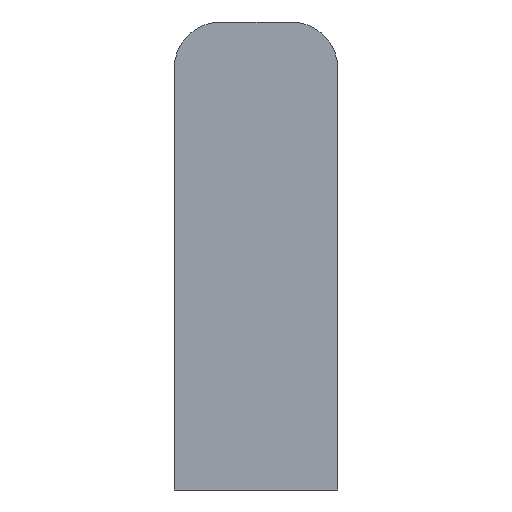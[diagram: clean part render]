
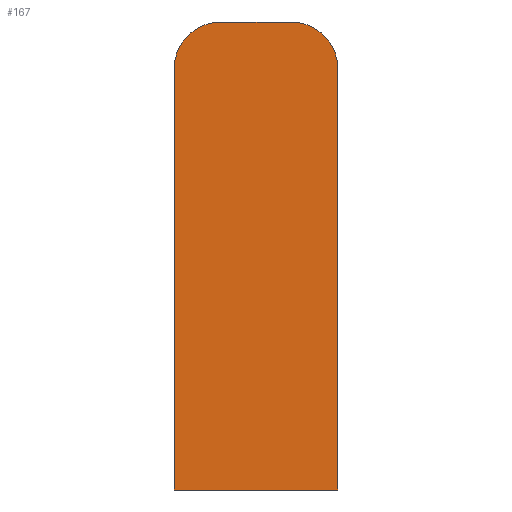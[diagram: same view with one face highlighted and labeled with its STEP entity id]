
A CAD part, front view. The second image highlights one B-rep face of the part: STEP entity #167.
In plain terms, the highlighted planar face has unit normal (0, -1, 0).
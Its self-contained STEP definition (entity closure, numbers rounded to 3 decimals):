
#2 = EDGE_CURVE ( 'NONE', #131, #54, #224, .T. ) ;
#3 = EDGE_CURVE ( 'NONE', #53, #55, #223, .T. ) ;
#5 = EDGE_CURVE ( 'NONE', #55, #57, #221, .T. ) ;
#9 = EDGE_CURVE ( 'NONE', #51, #131, #229, .T. ) ;
#11 = EDGE_CURVE ( 'NONE', #57, #51, #233, .T. ) ;
#15 = AXIS2_PLACEMENT_3D ( 'NONE', #40, #58, #59 ) ;
#16 = AXIS2_PLACEMENT_3D ( 'NONE', #65, #69, #70 ) ;
#27 = AXIS2_PLACEMENT_3D ( 'NONE', #139, #135, #138 ) ;
#36 = EDGE_CURVE ( 'NONE', #54, #53, #248, .T. ) ;
#40 = CARTESIAN_POINT ( 'NONE',  ( -2.25, 0., 10.5 ) ) ;
#51 = VERTEX_POINT ( 'NONE', #108 ) ;
#52 = CARTESIAN_POINT ( 'NONE',  ( 5.25, 0., -16.5 ) ) ;
#53 = VERTEX_POINT ( 'NONE', #109 ) ;
#54 = VERTEX_POINT ( 'NONE', #110 ) ;
#55 = VERTEX_POINT ( 'NONE', #111 ) ;
#57 = VERTEX_POINT ( 'NONE', #96 ) ;
#58 = DIRECTION ( 'NONE',  ( 0., -1., 0. ) ) ;
#59 = DIRECTION ( 'NONE',  ( -1., 0., 0. ) ) ;
#60 = CARTESIAN_POINT ( 'NONE',  ( 5.25, 0., -16.5 ) ) ;
#61 = DIRECTION ( 'NONE',  ( 1., 0., 0. ) ) ;
#65 = CARTESIAN_POINT ( 'NONE',  ( 2.25, 0., 10.5 ) ) ;
#66 = DIRECTION ( 'NONE',  ( 0., 0., 1. ) ) ;
#67 = CARTESIAN_POINT ( 'NONE',  ( 2.25, 0., 13.5 ) ) ;
#68 = DIRECTION ( 'NONE',  ( -1., 0., 0. ) ) ;
#69 = DIRECTION ( 'NONE',  ( 0., -1., 0. ) ) ;
#70 = DIRECTION ( 'NONE',  ( -1., 0., 0. ) ) ;
#96 = CARTESIAN_POINT ( 'NONE',  ( 5.25, 0., 10.5 ) ) ;
#97 = CARTESIAN_POINT ( 'NONE',  ( -5.25, 0., -16.5 ) ) ;
#98 = DIRECTION ( 'NONE',  ( 0., 0., -1. ) ) ;
#108 = CARTESIAN_POINT ( 'NONE',  ( 2.25, 0., 13.5 ) ) ;
#109 = CARTESIAN_POINT ( 'NONE',  ( -5.25, 0., -16.5 ) ) ;
#110 = CARTESIAN_POINT ( 'NONE',  ( -5.25, 0., 10.5 ) ) ;
#111 = CARTESIAN_POINT ( 'NONE',  ( 5.25, 0., -16.5 ) ) ;
#114 = CARTESIAN_POINT ( 'NONE',  ( -2.25, 0., 13.5 ) ) ;
#123 = PLANE ( 'NONE',  #27 ) ;
#131 = VERTEX_POINT ( 'NONE', #114 ) ;
#135 = DIRECTION ( 'NONE',  ( 0., 1., 0. ) ) ;
#138 = DIRECTION ( 'NONE',  ( -1., 0., 0. ) ) ;
#139 = CARTESIAN_POINT ( 'NONE',  ( 0., 0., -1.5 ) ) ;
#167 = ADVANCED_FACE ( 'NONE', ( #262 ), #123, .F. ) ;
#182 = EDGE_LOOP ( 'NONE', ( #210, #211, #212, #213, #214, #215 ) ) ;
#210 = ORIENTED_EDGE ( 'NONE', *, *, #5, .T. ) ;
#211 = ORIENTED_EDGE ( 'NONE', *, *, #11, .T. ) ;
#212 = ORIENTED_EDGE ( 'NONE', *, *, #9, .T. ) ;
#213 = ORIENTED_EDGE ( 'NONE', *, *, #2, .T. ) ;
#214 = ORIENTED_EDGE ( 'NONE', *, *, #36, .T. ) ;
#215 = ORIENTED_EDGE ( 'NONE', *, *, #3, .T. ) ;
#220 = VECTOR ( 'NONE', #61, 1000. ) ;
#221 = LINE ( 'NONE', #60, #227 ) ;
#223 = LINE ( 'NONE', #52, #220 ) ;
#224 = CIRCLE ( 'NONE', #15, 3. ) ;
#227 = VECTOR ( 'NONE', #66, 1000. ) ;
#229 = LINE ( 'NONE', #67, #230 ) ;
#230 = VECTOR ( 'NONE', #68, 1000. ) ;
#233 = CIRCLE ( 'NONE', #16, 3. ) ;
#246 = VECTOR ( 'NONE', #98, 1000. ) ;
#248 = LINE ( 'NONE', #97, #246 ) ;
#262 = FACE_OUTER_BOUND ( 'NONE', #182, .T. ) ;
